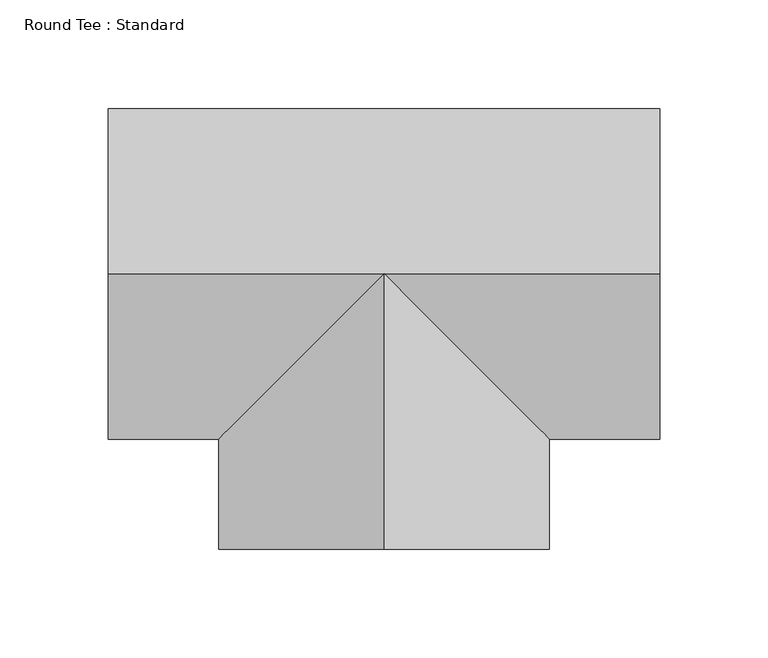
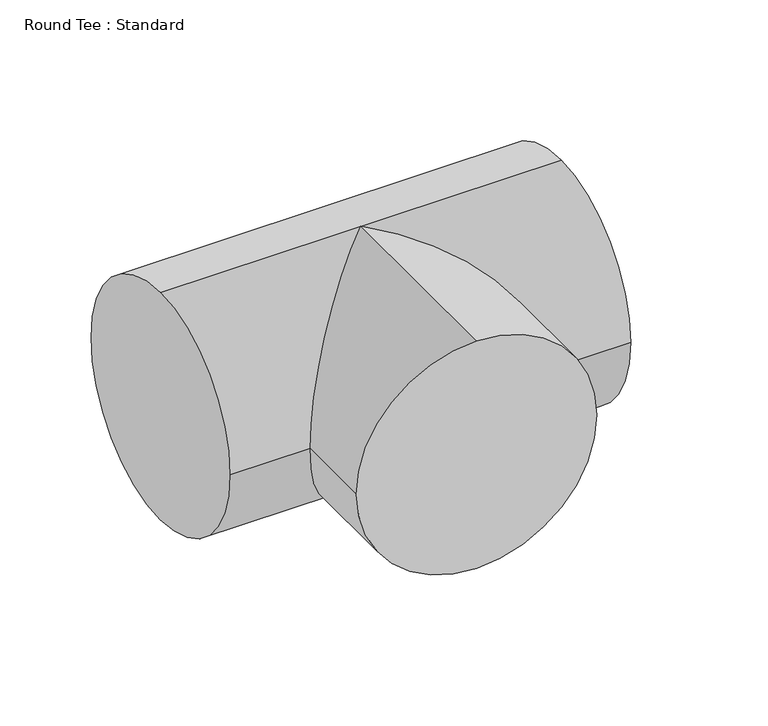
"""IFC4 building model written with IfcOpenShell, lengths in millimetres: duct fitting geometry, Round Tee : Standard."""

from ifc_helpers import new_model, si_unit, frame, origin, place, context, project, spatial, circle_curve, ellipse_curve, source, transform, mapped, element, save
from ifc_brep_helpers import plane_surface, cylinder_surface, advanced_brep


def round_tee_standard_f7545f24(model_context):
    return source(origin(), model_context, "Body", "AdvancedBrep", [
        advanced_brep(
        [(0.0, -127.0, 76.2), (-76.2, -127.0, 0.0), (0.0, -127.0, -76.2), (76.2, -127.0, 0.0), (76.2, -76.2, 0.0), (0.0, 0.0, 76.2), (0.0, 0.0, -76.2), (-76.2, -76.2, 0.0), (-127.0, 0.0, 76.2), (-127.0, 76.2, 0.0), (-127.0, 0.0, -76.2), (-127.0, -76.2, 0.0), (127.0, 0.0, 76.2), (127.0, -76.2, 0.0), (127.0, 0.0, -76.2), (127.0, 76.2, 0.0)],
        [
            (0, 1, circle_curve(frame((0.0, -127.0, 0.0), z_axis=(0.0, -1.0, 0.0), x_axis=(1.0, 0.0, 0.0)), 76.2)),
            (1, 2, circle_curve(frame((0.0, -127.0, 0.0), z_axis=(0.0, -1.0, 0.0), x_axis=(1.0, 0.0, 0.0)), 76.2)),
            (2, 3, circle_curve(frame((0.0, -127.0, 0.0), z_axis=(0.0, -1.0, 0.0), x_axis=(1.0, 0.0, 0.0)), 76.2)),
            (3, 0, circle_curve(frame((0.0, -127.0, 0.0), z_axis=(0.0, -1.0, 0.0), x_axis=(1.0, 0.0, 0.0)), 76.2)),
            (3, 4),
            (4, 5, ellipse_curve(frame((0.0, 0.0, 0.0), z_axis=(-0.7071067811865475, -0.7071067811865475, 0.0), x_axis=(-0.7071067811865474, 0.7071067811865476, 0.0)), 107.7630735, 76.2)),
            (5, 0),
            (2, 6),
            (6, 4, ellipse_curve(frame((0.0, 0.0, 0.0), z_axis=(-0.7071067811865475, -0.7071067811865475, 0.0), x_axis=(-0.7071067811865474, 0.7071067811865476, 0.0)), 107.7630735, 76.2)),
            (1, 7),
            (7, 6, ellipse_curve(frame((0.0, 0.0, 0.0), z_axis=(0.7071067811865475, -0.7071067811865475, 0.0), x_axis=(0.7071067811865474, 0.7071067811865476, 0.0)), 107.7630735, 76.2)),
            (5, 7, ellipse_curve(frame((0.0, 0.0, 0.0), z_axis=(0.7071067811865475, -0.7071067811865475, 0.0), x_axis=(0.7071067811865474, 0.7071067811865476, 0.0)), 107.7630735, 76.2)),
            (8, 9, circle_curve(frame((-127.0, 0.0, 0.0), z_axis=(-1.0, 0.0, 0.0), x_axis=(0.0, 1.0, 0.0)), 76.2)),
            (9, 10, circle_curve(frame((-127.0, 0.0, 0.0), z_axis=(-1.0, 0.0, 0.0), x_axis=(0.0, 1.0, 0.0)), 76.2)),
            (10, 11, circle_curve(frame((-127.0, 0.0, 0.0), z_axis=(-1.0, 0.0, 0.0), x_axis=(0.0, 1.0, 0.0)), 76.2)),
            (11, 8, circle_curve(frame((-127.0, 0.0, 0.0), z_axis=(-1.0, 0.0, 0.0), x_axis=(0.0, 1.0, 0.0)), 76.2)),
            (12, 13, circle_curve(frame((127.0, 0.0, 0.0), z_axis=(1.0, 0.0, 0.0), x_axis=(0.0, 1.0, 0.0)), 76.2)),
            (13, 14, circle_curve(frame((127.0, 0.0, 0.0), z_axis=(1.0, 0.0, 0.0), x_axis=(0.0, 1.0, 0.0)), 76.2)),
            (14, 15, circle_curve(frame((127.0, 0.0, 0.0), z_axis=(1.0, 0.0, 0.0), x_axis=(0.0, 1.0, 0.0)), 76.2)),
            (15, 12, circle_curve(frame((127.0, 0.0, 0.0), z_axis=(1.0, 0.0, 0.0), x_axis=(0.0, 1.0, 0.0)), 76.2)),
            (8, 5),
            (5, 12),
            (15, 9),
            (14, 6),
            (6, 10),
            (7, 11),
            (13, 4),
        ],
        [
            plane_surface(frame((0.0, -127.0, 0.0), z_axis=(0.0, -1.0, 0.0), x_axis=(0.0, 0.0, 1.0))),
            cylinder_surface(frame((0.0, 0.0, 0.0), z_axis=(0.0, 1.0, 0.0), x_axis=(1.0, 0.0, 0.0)), 76.2),
            plane_surface(frame((-127.0, 0.0, 0.0), z_axis=(-1.0, 0.0, 0.0), x_axis=(0.0, 0.0, 1.0))),
            plane_surface(frame((127.0, 0.0, 0.0), z_axis=(1.0, 0.0, 0.0), x_axis=(0.0, 0.0, 1.0))),
            cylinder_surface(frame((-127.0, 0.0, 0.0), z_axis=(-1.0, 0.0, 0.0), x_axis=(0.0, 1.0, 0.0)), 76.2),
        ],
        [
            (0, [[1, 2, 3, 4]]),
            (1, [[-4, 5, 6, 7]]),
            (1, [[-3, 8, 9, -5]]),
            (1, [[-2, 10, 11, -8]]),
            (1, [[-1, -7, 12, -10]]),
            (2, [[13, 14, 15, 16]]),
            (3, [[17, 18, 19, 20]]),
            (4, [[-13, 21, 22, -20, 23]]),
            (4, [[-14, -23, -19, 24, 25]]),
            (4, [[-15, -25, -11, 26]]),
            (4, [[-18, 27, -9, -24]]),
            (4, [[-16, -26, -12, -21]]),
            (4, [[-17, -22, -6, -27]]),
        ],
    ),
    ])


if __name__ == "__main__":
    model = new_model("IFC4")
    model_context = context("Model", 3, world=origin())
    ifc_project = project(units=[si_unit("LENGTHUNIT", "METRE", prefix="MILLI")], contexts=[model_context])
    site = spatial("IfcSite", under=ifc_project)
    building = spatial("IfcBuilding", under=site)
    placement = place(None, origin())
    round_tee_standard_shape = round_tee_standard_f7545f24(model_context)
    element("IfcDuctFitting", 1, ObjectType="Round Tee : Standard", at=placement, inside=building, context=model_context, shape_type="MappedRepresentation", body=[
        mapped(round_tee_standard_shape, transform((0.0, 0.0, 0.0), x_axis=(1.0, 0.0, 0.0), y_axis=(0.0, 1.0, 0.0), z_axis=(0.0, 0.0, 1.0))),
    ])
    save(model, "model.ifc")
